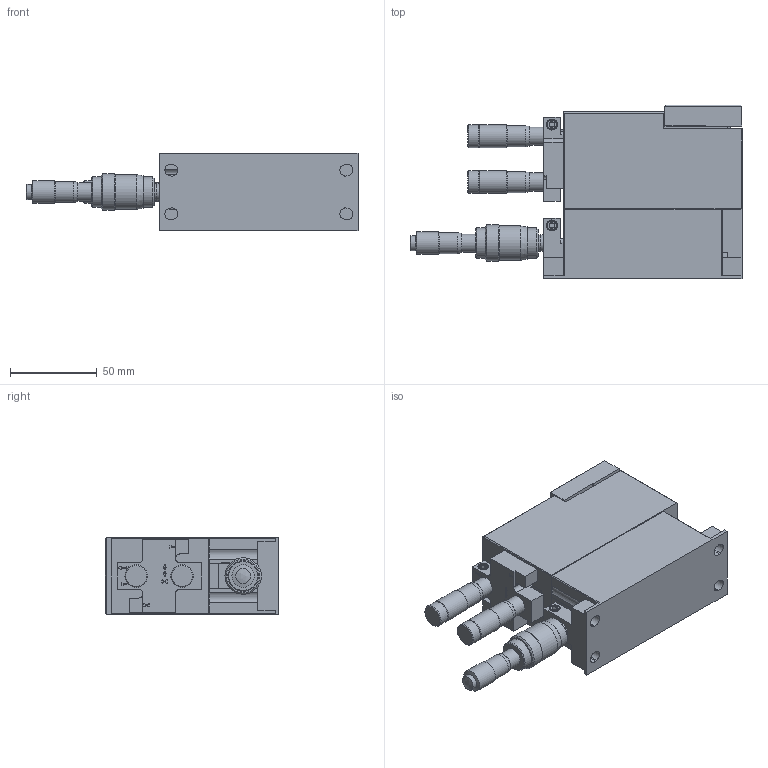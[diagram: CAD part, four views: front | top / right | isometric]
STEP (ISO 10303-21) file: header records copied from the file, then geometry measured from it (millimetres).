
FILE_DESCRIPTION((''),'1');
FILE_NAME('P1-L-H-I','2021-03-26T14:19:13',('JD'),('Luminos'),'Spatial Interop R20 SP1','Kubotek KeyCreator V9.0.3 (16864)',' ');
FILE_SCHEMA(('automotive_design'));
Length unit declared in the file: inch
Products named in the file (2): 1; 2
Bounding box: 191.28 x 100.08 x 44.45 mm (x, y, z)
Volume: 480170.2 mm3; surface area: 67124 mm2
Topology: 2 solids, 2 shells, 540 faces, 1241 edges, 784 vertices
Faces by surface type: plane 304, cylinder 122, cone 113, sphere 1
Full cylindrical faces by diameter (mm): 2.261 x25, 4.648 x8, 4.762 x6, 4.775 x2, 5 x3, 5.74 x3, 6.35 x3, 7.144 x1, 8.7 x1, 9.3 x1, 9.5 x3, 9.525 x1, 10.49 x2, 10.5 x1, 12.1 x1, 12.116 x2, 13 x1, 13.081 x4, 17.7 x2, 20 x1, 21 x1
Entity records: 25939 total; most frequent: CARTESIAN_POINT 2583, DIRECTION 2430, PRESENTATION_STYLE_ASSIGNMENT 2150, COLOUR_RGB 2150, ORIENTED_EDGE 2132, STYLED_ITEM 1608, CURVE_STYLE 1608, DRAUGHTING_PRE_DEFINED_CURVE_FONT 1608
